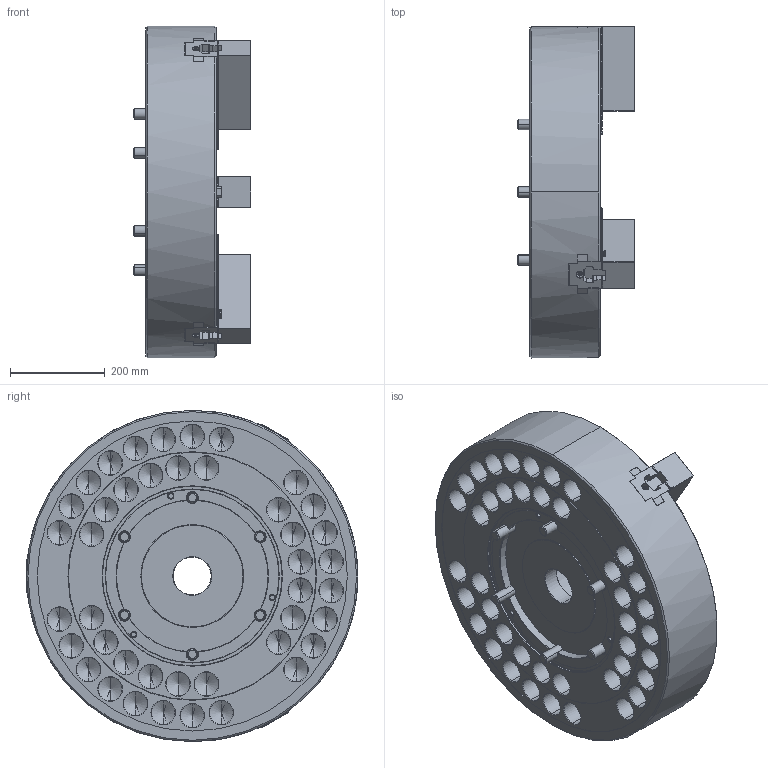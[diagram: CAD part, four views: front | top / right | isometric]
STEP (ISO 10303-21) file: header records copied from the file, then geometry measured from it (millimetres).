
FILE_DESCRIPTION (( 'STEP AP214' ), '1' );
FILE_NAME ('HUL_B-28.STEP', '2026-01-22T05:34:21', ( '' ), ( '' ), 'SwSTEP 2.0', 'SolidWorks 2022', '' );
FILE_SCHEMA (( 'AUTOMOTIVE_DESIGN' ));
Length unit declared in the file: millimetre
Products named in the file (11): Copy of 61P329613^HP用3Dモデル_B-28_61P264033; Copy of 61P405602^HP用3Dモデル_B-28_61P264033; Copy of 0030122150^HP用3Dモデル_B-28_61P264033; Copy of P32262^HP用3Dモデル_B-28_61P264033; Copy of 0030106016^HP用3Dモデル_B-28_61P264033; Copy of 61P809786^HP用3Dモデル_B-28_61P264033_社外提出用; Copy of 0030120060^HP用3Dモデル_B-28_61P264033; Copy of 0230004700^HP用3Dモデル_B-28_61P264033; HUL_B-28; Copy of P42577^HP用3Dモデル_B-28_61P264033; Part6^HP用3Dモデル_B-28_61P264033
Assembly tree (29 placements, depth 2):
  HUL_B-28
    Copy of P32262^HP用3Dモデル_B-28_61P264033  x3
    Copy of 61P405602^HP用3Dモデル_B-28_61P264033  x3
    Copy of 61P809786^HP用3Dモデル_B-28_61P264033_社外提出用
    Copy of 61P329613^HP用3Dモデル_B-28_61P264033
    Copy of P42577^HP用3Dモデル_B-28_61P264033
    Copy of 0030120060^HP用3Dモデル_B-28_61P264033  x6
    Copy of 0030122150^HP用3Dモデル_B-28_61P264033  x6
    Copy of 0230004700^HP用3Dモデル_B-28_61P264033
    Copy of 0030106016^HP用3Dモデル_B-28_61P264033  x6
    Part6^HP用3Dモデル_B-28_61P264033
Bounding box: 248 x 701.14 x 700 mm (x, y, z)
Volume: 46257599.1 mm3; surface area: 2794428.1 mm2
Topology: 29 solids, 35 shells, 8901 faces, 25224 edges, 16552 vertices
Faces by surface type: plane 5434, cylinder 1720, bspline 985, cone 685, torus 69, sphere 8
Entity records: 255311 total; most frequent: CARTESIAN_POINT 81706, ORIENTED_EDGE 39426, DIRECTION 30794, EDGE_CURVE 19713, VECTOR 14444, LINE 14444, VERTEX_POINT 12996, AXIS2_PLACEMENT_3D 8175
